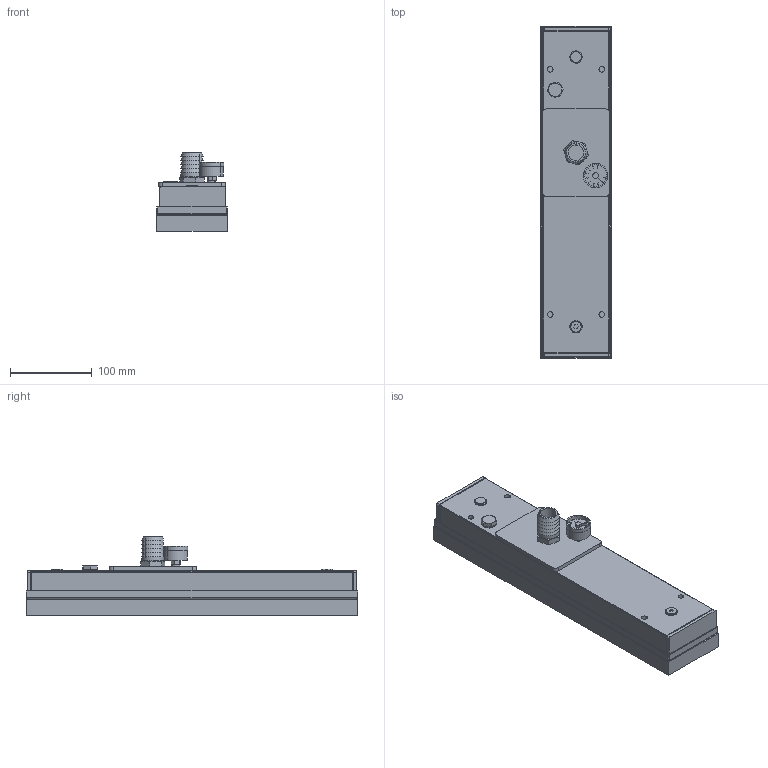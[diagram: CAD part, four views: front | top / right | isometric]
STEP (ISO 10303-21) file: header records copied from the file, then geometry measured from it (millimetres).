
FILE_DESCRIPTION (( 'STEP AP214' ), '1' );
FILE_NAME ('9671 040 012.STEP', '2012-09-03T13:27:53', ( 'cad' ), ( 'Microsoft' ), 'SwSTEP 2.0', 'SolidWorks 2012', '' );
FILE_SCHEMA (( 'AUTOMOTIVE_DESIGN' ));
Length unit declared in the file: millimetre
Products named in the file (1): 9671 040 012
Bounding box: 86 x 406 x 96.5 mm (x, y, z)
Volume: 1704986.6 mm3; surface area: 202901.1 mm2
Topology: 1 solids, 1 shells, 426 faces, 955 edges, 602 vertices
Faces by surface type: plane 228, cylinder 146, cone 30, bspline 14, torus 8
Entity records: 15749 total; most frequent: CARTESIAN_POINT 2866, DIRECTION 2053, ORIENTED_EDGE 1910, EDGE_CURVE 955, AXIS2_PLACEMENT_3D 757, VERTEX_POINT 602, LINE 539, VECTOR 539
